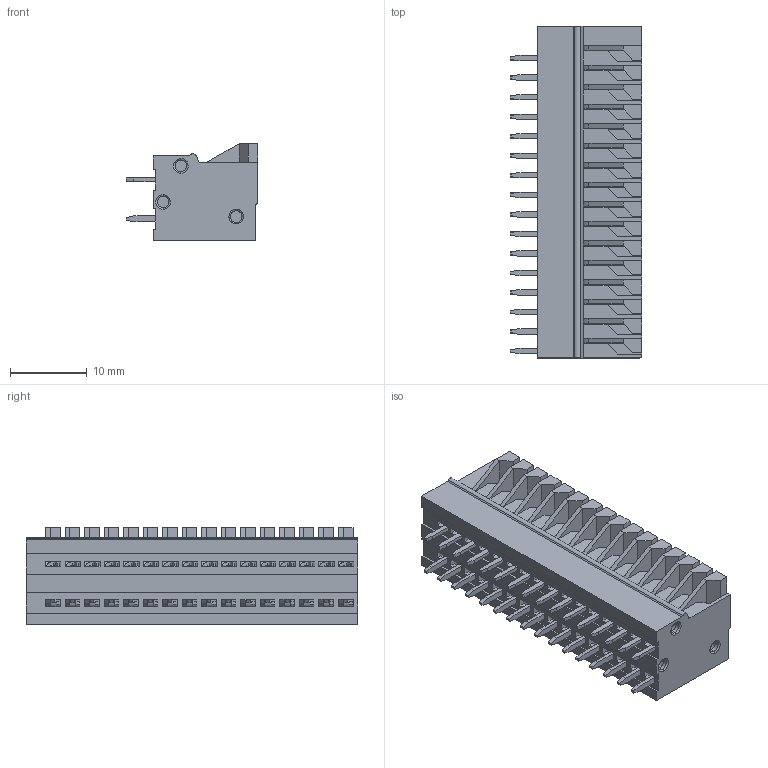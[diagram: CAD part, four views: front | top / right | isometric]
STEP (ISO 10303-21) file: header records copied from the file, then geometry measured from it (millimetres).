
FILE_DESCRIPTION (( 'STEP AP214' ), '1' );
FILE_NAME ('8935-B126136G16SB.STEP', '2018-06-08T05:32:02', ( 'ADMIN' ), ( '' ), 'SwSTEP 2.0', 'SolidWorks 2011', '' );
FILE_SCHEMA (( 'AUTOMOTIVE_DESIGN' ));
Length unit declared in the file: millimetre
Products named in the file (1): 8935-B126136G16SB
Bounding box: 17.1 x 43.18 x 12.6 mm (x, y, z)
Volume: 4012 mm3; surface area: 12481.2 mm2
Topology: 36 solids, 36 shells, 4144 faces, 12155 edges, 7926 vertices
Faces by surface type: plane 2837, cylinder 969, bspline 214, torus 76, cone 48
Entity records: 149050 total; most frequent: CARTESIAN_POINT 35050, ORIENTED_EDGE 24302, DIRECTION 21444, EDGE_CURVE 12151, LINE 8316, VECTOR 8316, VERTEX_POINT 7926, AXIS2_PLACEMENT_3D 6564
